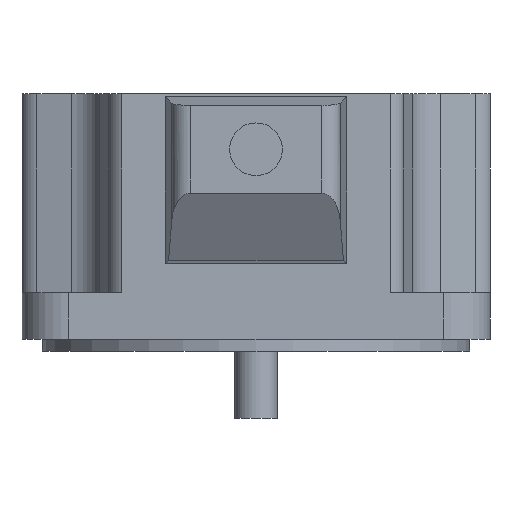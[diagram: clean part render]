
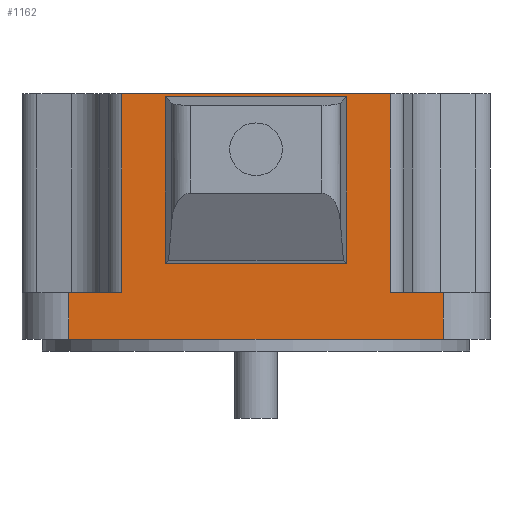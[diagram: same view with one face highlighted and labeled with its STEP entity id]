
A CAD part, front view. The second image highlights one B-rep face of the part: STEP entity #1162.
In plain terms, the highlighted planar face has unit normal (0, -1, 0).
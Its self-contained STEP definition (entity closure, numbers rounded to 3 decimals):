
#5 = ORIENTED_EDGE ( 'NONE', *, *, #1030, .F. ) ;
#7 = DIRECTION ( 'NONE',  ( 0., 0., -1. ) ) ;
#25 = ORIENTED_EDGE ( 'NONE', *, *, #512, .F. ) ;
#35 = EDGE_CURVE ( 'NONE', #895, #1889, #580, .T. ) ;
#55 = CARTESIAN_POINT ( 'NONE',  ( -22.98, -40., 42. ) ) ;
#63 = VERTEX_POINT ( 'NONE', #1020 ) ;
#90 = DIRECTION ( 'NONE',  ( 1., 0., 0. ) ) ;
#112 = LINE ( 'NONE', #1288, #1297 ) ;
#134 = PLANE ( 'NONE',  #1238 ) ;
#172 = VECTOR ( 'NONE', #892, 1000. ) ;
#220 = DIRECTION ( 'NONE',  ( 1., 0., 0. ) ) ;
#233 = LINE ( 'NONE', #1139, #610 ) ;
#240 = DIRECTION ( 'NONE',  ( 0., 0., -1. ) ) ;
#259 = CARTESIAN_POINT ( 'NONE',  ( 32., -40., 0. ) ) ;
#262 = VECTOR ( 'NONE', #305, 1000. ) ;
#265 = VECTOR ( 'NONE', #7, 1000. ) ;
#305 = DIRECTION ( 'NONE',  ( 0., 0., 1. ) ) ;
#314 = ORIENTED_EDGE ( 'NONE', *, *, #1456, .F. ) ;
#321 = VERTEX_POINT ( 'NONE', #1057 ) ;
#360 = DIRECTION ( 'NONE',  ( 0., 0., 1. ) ) ;
#384 = VECTOR ( 'NONE', #360, 1000. ) ;
#407 = CARTESIAN_POINT ( 'NONE',  ( -15.5, -40., 41.5 ) ) ;
#411 = EDGE_CURVE ( 'NONE', #1013, #63, #825, .T. ) ;
#431 = CARTESIAN_POINT ( 'NONE',  ( -40., -40., 8. ) ) ;
#475 = CARTESIAN_POINT ( 'NONE',  ( 22.98, -40., 42. ) ) ;
#503 = VERTEX_POINT ( 'NONE', #259 ) ;
#512 = EDGE_CURVE ( 'NONE', #1246, #1241, #1473, .T. ) ;
#548 = LINE ( 'NONE', #1777, #928 ) ;
#551 = EDGE_CURVE ( 'NONE', #1241, #895, #112, .T. ) ;
#580 = LINE ( 'NONE', #1050, #172 ) ;
#582 = CARTESIAN_POINT ( 'NONE',  ( -40., -40., 41.5 ) ) ;
#610 = VECTOR ( 'NONE', #664, 1000. ) ;
#639 = ORIENTED_EDGE ( 'NONE', *, *, #1341, .F. ) ;
#664 = DIRECTION ( 'NONE',  ( 1., 0., 0. ) ) ;
#672 = LINE ( 'NONE', #949, #384 ) ;
#688 = ORIENTED_EDGE ( 'NONE', *, *, #1041, .F. ) ;
#710 = DIRECTION ( 'NONE',  ( 0., 0., -1. ) ) ;
#739 = CARTESIAN_POINT ( 'NONE',  ( 32., -40., 8. ) ) ;
#752 = ORIENTED_EDGE ( 'NONE', *, *, #1799, .F. ) ;
#760 = CARTESIAN_POINT ( 'NONE',  ( 22.98, -40., 8. ) ) ;
#785 = EDGE_CURVE ( 'NONE', #1309, #1097, #1644, .T. ) ;
#802 = ORIENTED_EDGE ( 'NONE', *, *, #551, .F. ) ;
#825 = LINE ( 'NONE', #1244, #1171 ) ;
#892 = DIRECTION ( 'NONE',  ( 1., 0., 0. ) ) ;
#895 = VERTEX_POINT ( 'NONE', #1966 ) ;
#898 = CARTESIAN_POINT ( 'NONE',  ( -40., -40., 8. ) ) ;
#928 = VECTOR ( 'NONE', #1157, 1000. ) ;
#937 = LINE ( 'NONE', #1386, #262 ) ;
#949 = CARTESIAN_POINT ( 'NONE',  ( 15.5, -40., 8. ) ) ;
#1013 = VERTEX_POINT ( 'NONE', #55 ) ;
#1020 = CARTESIAN_POINT ( 'NONE',  ( 22.98, -40., 42. ) ) ;
#1030 = EDGE_CURVE ( 'NONE', #1820, #321, #233, .T. ) ;
#1041 = EDGE_CURVE ( 'NONE', #1889, #1246, #672, .T. ) ;
#1050 = CARTESIAN_POINT ( 'NONE',  ( -40., -40., 13. ) ) ;
#1057 = CARTESIAN_POINT ( 'NONE',  ( -22.98, -40., 8. ) ) ;
#1097 = VERTEX_POINT ( 'NONE', #1252 ) ;
#1139 = CARTESIAN_POINT ( 'NONE',  ( -40., -40., 8. ) ) ;
#1145 = VECTOR ( 'NONE', #710, 1000. ) ;
#1157 = DIRECTION ( 'NONE',  ( 0., 0., 1. ) ) ;
#1162 = ADVANCED_FACE ( 'NONE', ( #1863, #1317 ), #134, .F. ) ;
#1165 = CARTESIAN_POINT ( 'NONE',  ( -32., -40., 8. ) ) ;
#1171 = VECTOR ( 'NONE', #220, 1000. ) ;
#1230 = LINE ( 'NONE', #475, #265 ) ;
#1238 = AXIS2_PLACEMENT_3D ( 'NONE', #431, #1334, #1922 ) ;
#1241 = VERTEX_POINT ( 'NONE', #407 ) ;
#1244 = CARTESIAN_POINT ( 'NONE',  ( -40., -40., 42. ) ) ;
#1246 = VERTEX_POINT ( 'NONE', #1619 ) ;
#1252 = CARTESIAN_POINT ( 'NONE',  ( 32., -40., 8. ) ) ;
#1286 = EDGE_LOOP ( 'NONE', ( #688, #1920, #802, #25 ) ) ;
#1288 = CARTESIAN_POINT ( 'NONE',  ( -15.5, -40., 8. ) ) ;
#1297 = VECTOR ( 'NONE', #240, 1000. ) ;
#1309 = VERTEX_POINT ( 'NONE', #760 ) ;
#1317 = FACE_OUTER_BOUND ( 'NONE', #1751, .T. ) ;
#1334 = DIRECTION ( 'NONE',  ( 0., 1., 0. ) ) ;
#1341 = EDGE_CURVE ( 'NONE', #1872, #1820, #937, .T. ) ;
#1343 = CARTESIAN_POINT ( 'NONE',  ( -32., -40., 0. ) ) ;
#1386 = CARTESIAN_POINT ( 'NONE',  ( -32., -40., 8. ) ) ;
#1430 = LINE ( 'NONE', #1441, #1688 ) ;
#1441 = CARTESIAN_POINT ( 'NONE',  ( -40., -40., 0. ) ) ;
#1456 = EDGE_CURVE ( 'NONE', #503, #1872, #1430, .T. ) ;
#1473 = LINE ( 'NONE', #582, #1648 ) ;
#1530 = ORIENTED_EDGE ( 'NONE', *, *, #1972, .F. ) ;
#1566 = DIRECTION ( 'NONE',  ( -1., 0., 0. ) ) ;
#1618 = DIRECTION ( 'NONE',  ( -1., 0., 0. ) ) ;
#1619 = CARTESIAN_POINT ( 'NONE',  ( 15.5, -40., 41.5 ) ) ;
#1626 = EDGE_CURVE ( 'NONE', #1097, #503, #1639, .T. ) ;
#1639 = LINE ( 'NONE', #739, #1145 ) ;
#1644 = LINE ( 'NONE', #898, #1656 ) ;
#1646 = ORIENTED_EDGE ( 'NONE', *, *, #411, .F. ) ;
#1648 = VECTOR ( 'NONE', #1618, 1000. ) ;
#1656 = VECTOR ( 'NONE', #90, 1000. ) ;
#1688 = VECTOR ( 'NONE', #1566, 1000. ) ;
#1751 = EDGE_LOOP ( 'NONE', ( #5, #639, #314, #1772, #1821, #1530, #1646, #752 ) ) ;
#1772 = ORIENTED_EDGE ( 'NONE', *, *, #1626, .F. ) ;
#1777 = CARTESIAN_POINT ( 'NONE',  ( -22.98, -40., 8. ) ) ;
#1799 = EDGE_CURVE ( 'NONE', #321, #1013, #548, .T. ) ;
#1820 = VERTEX_POINT ( 'NONE', #1165 ) ;
#1821 = ORIENTED_EDGE ( 'NONE', *, *, #785, .F. ) ;
#1863 = FACE_BOUND ( 'NONE', #1286, .T. ) ;
#1872 = VERTEX_POINT ( 'NONE', #1343 ) ;
#1889 = VERTEX_POINT ( 'NONE', #1959 ) ;
#1920 = ORIENTED_EDGE ( 'NONE', *, *, #35, .F. ) ;
#1922 = DIRECTION ( 'NONE',  ( 0., 0., 1. ) ) ;
#1959 = CARTESIAN_POINT ( 'NONE',  ( 15.5, -40., 13. ) ) ;
#1966 = CARTESIAN_POINT ( 'NONE',  ( -15.5, -40., 13. ) ) ;
#1972 = EDGE_CURVE ( 'NONE', #63, #1309, #1230, .T. ) ;
